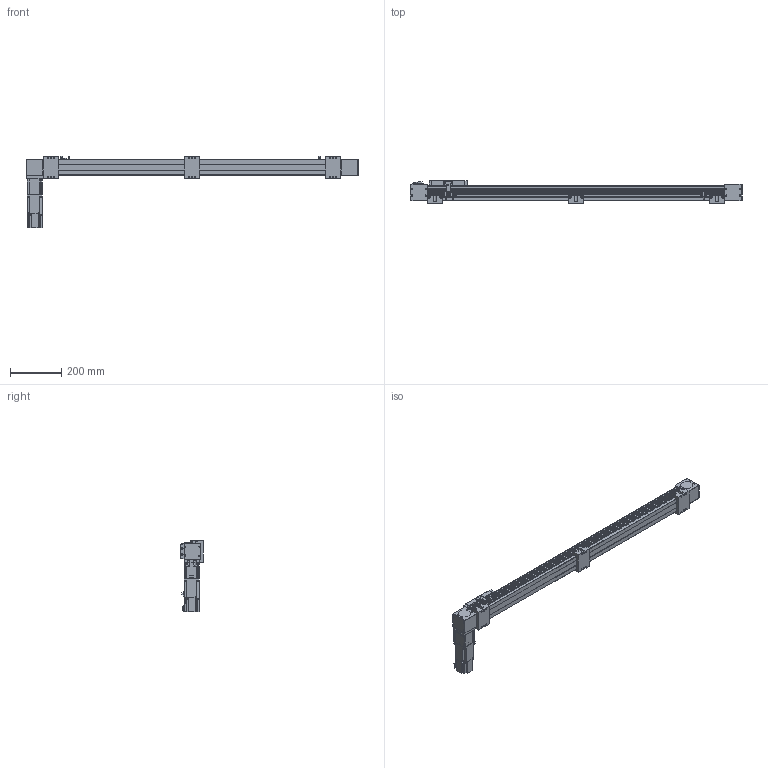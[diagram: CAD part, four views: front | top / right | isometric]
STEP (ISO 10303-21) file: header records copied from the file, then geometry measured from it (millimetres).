
FILE_DESCRIPTION(/* description */ ('STEP AP203'),/* implementation_level */ '2;1');
FILE_NAME(/* name */ 'SK60-P13-S1000-BR-T40-C1-N(0)',/* time_stamp */ '2023-04-06T03:59:38+02:00',/* author */ ('License CC BY-ND 4.0'),/* organization */ ('CADENAS'),/* preprocessor_version */ 'ST-DEVELOPER v19.3',/* originating_system */ 'PARTsolutions',/* authorisation */ ' ');
FILE_SCHEMA (('CONFIG_CONTROL_DESIGN'));
Length unit declared in the file: millimetre
Products named in the file (11): SK60-P13-S1000-BR-T40-C1-N(0); PSC140-sensor; SK60-S450_seat; SK60-S450-BL-C1_slider; SK60_body3; SK60_body6; SK60-BL_body2; T40-p1; SK60_body5; SK60_body4; SK60-S1000-BR-C1_body
Assembly tree (18 placements, depth 2):
  SK60-P13-S1000-BR-T40-C1-N(0)
    PSC140-sensor  x3
    SK60-S450_seat  x3
    SK60-S450-BL-C1_slider
    SK60_body3  x3
    SK60_body6  x2
    SK60-BL_body2  x2
    T40-p1
    SK60_body5
    SK60_body4
    SK60-S1000-BR-C1_body
Bounding box: 1300 x 90 x 279.1 mm (x, y, z)
Volume: 5059155.1 mm3; surface area: 688579.2 mm2
Topology: 18 solids, 22 shells, 878 faces, 2207 edges, 1458 vertices
Faces by surface type: plane 568, cylinder 282, cone 26, torus 2
Full cylindrical faces by diameter (mm): 2.8 x3, 3.3 x4, 4.2 x8, 4.5 x26, 4.6 x3, 4.917 x20, 5 x2, 5.478 x4, 5.5 x23, 6.5 x6, 8 x4, 8.5 x4, 9.988 x4, 10 x12, 13.556 x1, 14 x1, 14.586 x1, 19.692 x1, 38.432 x2, 43 x1, 44 x3, 47 x2, 50 x2
Entity records: 19379 total; most frequent: DIRECTION 3294, CARTESIAN_POINT 3290, ORIENTED_EDGE 3050, EDGE_CURVE 1525, AXIS2_PLACEMENT_3D 1101, LINE 1092, VECTOR 1092, VERTEX_POINT 1077
